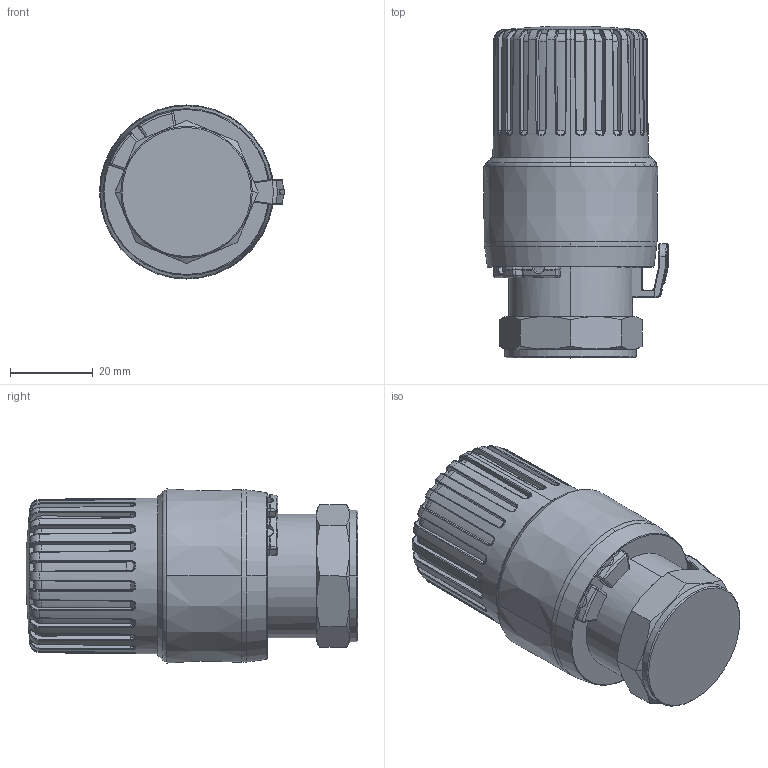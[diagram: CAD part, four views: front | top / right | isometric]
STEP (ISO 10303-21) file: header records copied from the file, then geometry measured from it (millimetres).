
FILE_DESCRIPTION (( 'STEP AP214' ), '1' );
FILE_NAME ('443000.STEP', '2021-07-07T12:10:50', ( '' ), ( '' ), 'SwSTEP 2.0', 'SolidWorks 2016', '' );
FILE_SCHEMA (( 'AUTOMOTIVE_DESIGN' ));
Length unit declared in the file: millimetre
Products named in the file (1): 443000
Bounding box: 44.79 x 80.39 x 42.19 mm (x, y, z)
Volume: 86255 mm3; surface area: 13423.6 mm2
Topology: 1 solids, 1 shells, 640 faces, 1699 edges, 1059 vertices
Faces by surface type: bspline 191, torus 133, cylinder 117, plane 114, cone 78, sphere 7
Entity records: 27869 total; most frequent: CARTESIAN_POINT 12741, ORIENTED_EDGE 3380, DIRECTION 2293, EDGE_CURVE 1690, VERTEX_POINT 1055, AXIS2_PLACEMENT_3D 980, B_SPLINE_CURVE_WITH_KNOTS 756, EDGE_LOOP 643
